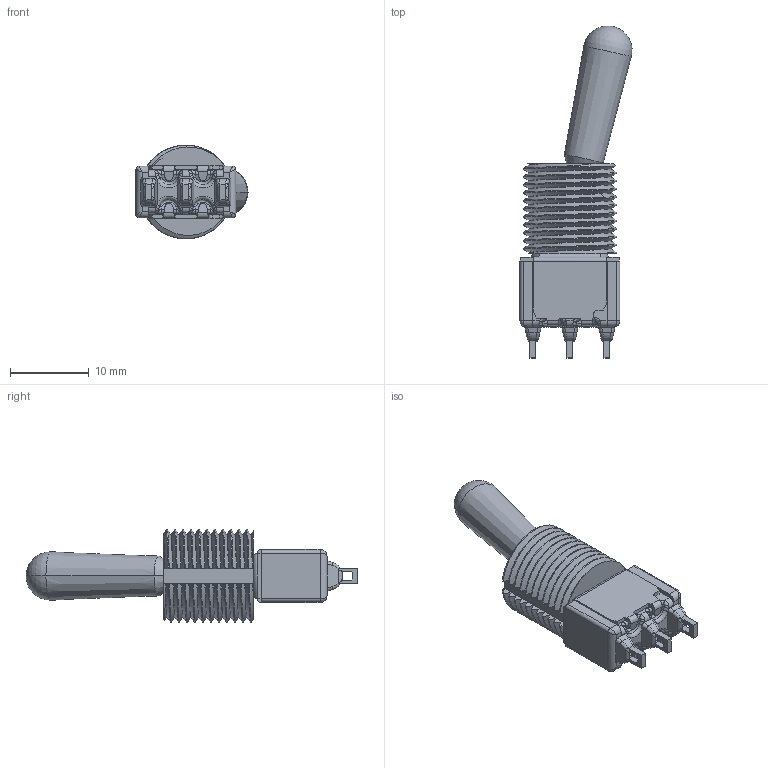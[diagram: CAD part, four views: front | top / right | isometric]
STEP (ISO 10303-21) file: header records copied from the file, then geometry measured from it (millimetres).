
FILE_DESCRIPTION((''),'2;1');
FILE_NAME('710XTCWZ_SW0001_PRT','2011-10-14T',('jtrepler'),(''),'PRO/ENGINEER BY PARAMETRIC TECHNOLOGY CORPORATION, 2011080','PRO/ENGINEER BY PARAMETRIC TECHNOLOGY CORPORATION, 2011080','');
FILE_SCHEMA(('AUTOMOTIVE_DESIGN_CC2 { 1 2 10303 214 -1 1 5 2 }'));
Length unit declared in the file: inch
Products named in the file (1): 710XTCWZ_SW0001_PRT
Bounding box: 14.26 x 42.24 x 11.9 mm (x, y, z)
Volume: 1813.5 mm3; surface area: 3163.4 mm2
Topology: 1 solids, 1 shells, 583 faces, 1542 edges, 950 vertices
Faces by surface type: plane 273, cylinder 151, bspline 110, torus 22, cone 20, sphere 7
Entity records: 28383 total; most frequent: CARTESIAN_POINT 14811, ORIENTED_EDGE 3076, DIRECTION 2442, EDGE_CURVE 1538, VERTEX_POINT 950, VECTOR 896, LINE 896, AXIS2_PLACEMENT_3D 773
